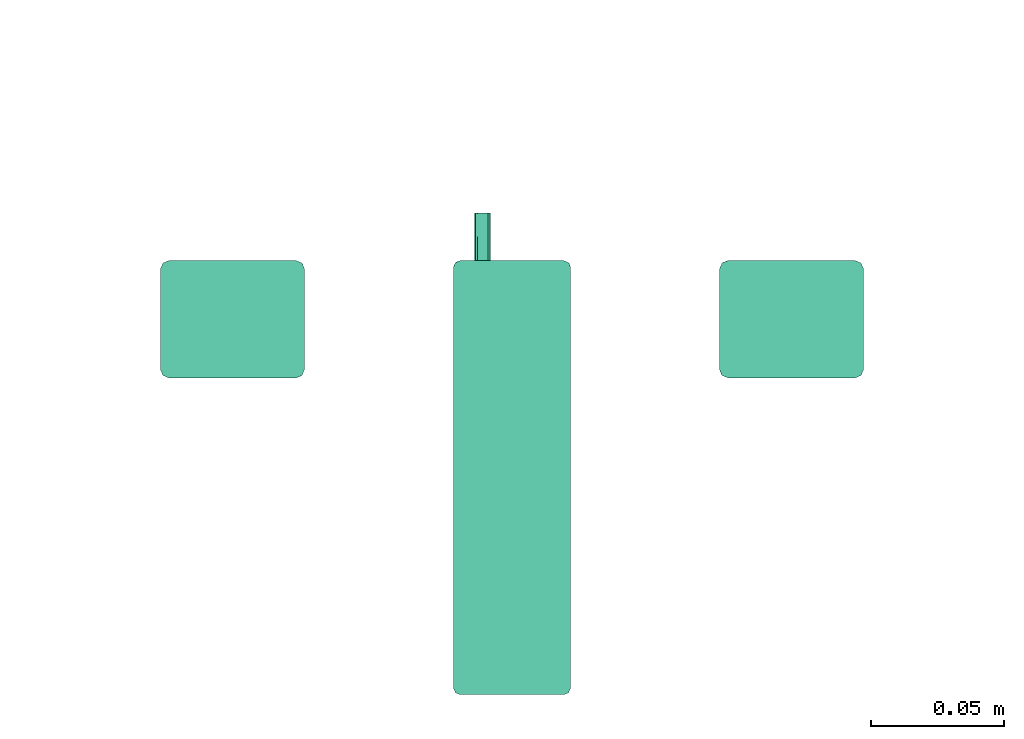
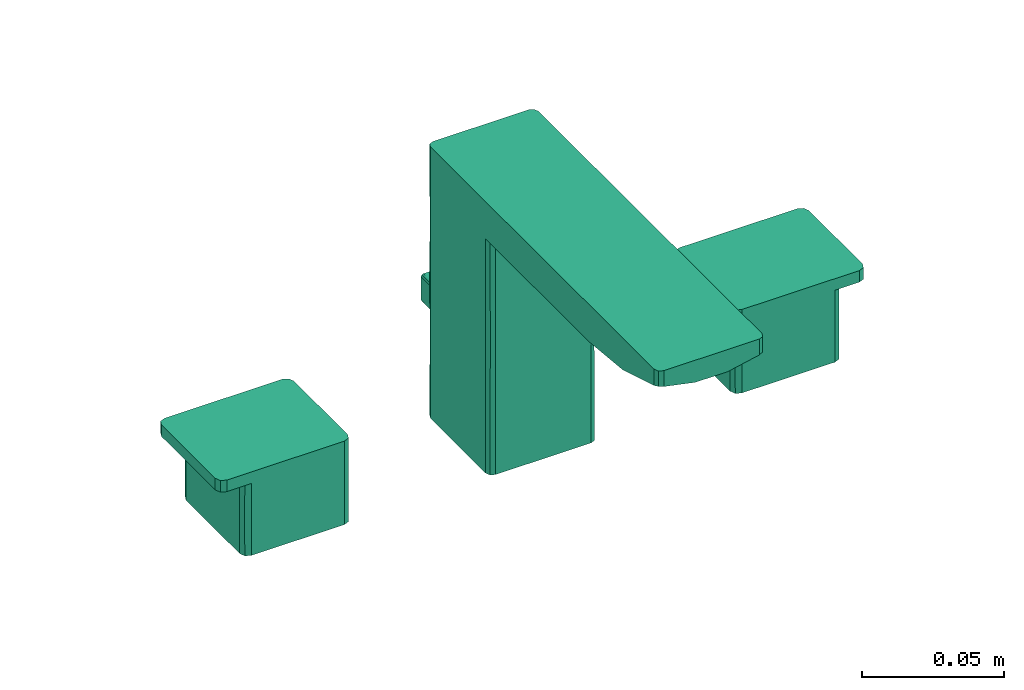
# One storey, part 2 of 2: 1 flow terminal.
"""IFC2X3 building model written with IfcOpenShell, lengths in millimetres."""

from ifc_helpers import new_model, entity, si_unit, converted_unit, derived_unit, direction, frame, origin, place, context, subcontext, project, spatial, faceted_brep, source, transform, mapped, material, type_object, type_shapes, element, save


model = new_model("IFC2X3")

# Units and contexts
model_context = context("Model", 3, precision=0.01, world=origin(), true_north=direction((6.12303176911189e-17, 1.0)))
body_context = subcontext(model_context, "Body", "Model", "MODEL_VIEW")
ifc_project = project(units=[si_unit("LENGTHUNIT", "METRE", prefix="MILLI"), si_unit("AREAUNIT", "SQUARE_METRE"), si_unit("VOLUMEUNIT", "CUBIC_METRE"), converted_unit("PLANEANGLEUNIT", "DEGREE", entity("IfcRatioMeasure", 0.0174532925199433), si_unit("PLANEANGLEUNIT", "RADIAN"), dimensions=[0, 0, 0, 0, 0, 0, 0]), si_unit("MASSUNIT", "GRAM", prefix="KILO"), derived_unit("MASSDENSITYUNIT", [(si_unit("MASSUNIT", "GRAM", prefix="KILO"), 1), (si_unit("LENGTHUNIT", "METRE"), -3)]), derived_unit("MOMENTOFINERTIAUNIT", [(si_unit("LENGTHUNIT", "METRE"), 4)]), si_unit("TIMEUNIT", "SECOND"), si_unit("FREQUENCYUNIT", "HERTZ"), si_unit("THERMODYNAMICTEMPERATUREUNIT", "DEGREE_CELSIUS"), derived_unit("THERMALTRANSMITTANCEUNIT", [(si_unit("MASSUNIT", "GRAM", prefix="KILO"), 1), (si_unit("THERMODYNAMICTEMPERATUREUNIT", "KELVIN"), -1), (si_unit("TIMEUNIT", "SECOND"), -3)]), derived_unit("VOLUMETRICFLOWRATEUNIT", [(si_unit("LENGTHUNIT", "METRE"), 3), (si_unit("TIMEUNIT", "SECOND"), -1)]), si_unit("ELECTRICCURRENTUNIT", "AMPERE"), si_unit("ELECTRICVOLTAGEUNIT", "VOLT"), si_unit("POWERUNIT", "WATT"), si_unit("FORCEUNIT", "NEWTON", prefix="KILO"), si_unit("ILLUMINANCEUNIT", "LUX"), si_unit("LUMINOUSFLUXUNIT", "LUMEN"), si_unit("LUMINOUSINTENSITYUNIT", "CANDELA"), derived_unit("USERDEFINED", [(si_unit("MASSUNIT", "GRAM", prefix="KILO"), -1), (si_unit("LENGTHUNIT", "METRE"), -2), (si_unit("TIMEUNIT", "SECOND"), 3), (si_unit("LUMINOUSFLUXUNIT", "LUMEN"), 1)]), derived_unit("LINEARVELOCITYUNIT", [(si_unit("LENGTHUNIT", "METRE"), 1), (si_unit("TIMEUNIT", "SECOND"), -1)]), si_unit("PRESSUREUNIT", "PASCAL"), derived_unit("USERDEFINED", [(si_unit("LENGTHUNIT", "METRE"), -2), (si_unit("MASSUNIT", "GRAM", prefix="KILO"), 1), (si_unit("TIMEUNIT", "SECOND"), -2)]), derived_unit("LINEARFORCEUNIT", [(si_unit("MASSUNIT", "GRAM", prefix="KILO"), 1), (si_unit("LENGTHUNIT", "METRE"), 1), (si_unit("TIMEUNIT", "SECOND"), -2), (si_unit("LENGTHUNIT", "METRE"), -1)]), derived_unit("PLANARFORCEUNIT", [(si_unit("MASSUNIT", "GRAM", prefix="KILO"), 1), (si_unit("LENGTHUNIT", "METRE"), 1), (si_unit("TIMEUNIT", "SECOND"), -2), (si_unit("LENGTHUNIT", "METRE"), -2)])], contexts=[model_context])

# Site, building, storey
site_placement = place(None, origin())
site = spatial("IfcSite", under=ifc_project, at=site_placement, Name="Default", CompositionType="ELEMENT")
building_placement = place(site_placement, origin())
building = spatial("IfcBuilding", under=site, at=building_placement, CompositionType="ELEMENT")
storey_placement = place(building_placement, origin())
storey = spatial("IfcBuildingStorey", under=building, at=storey_placement, Name="Level 1", CompositionType="ELEMENT", Elevation=0.0)

# Flow terminal
ifc_material = material(Name="Gold")
distribution_element_type = type_object("IfcDistributionElementType", Name="FFAS1303-101GL0BT0_REVIT:Acacia E 8 inch basin mixer", material=ifc_material)
shared_shape = source(origin(), body_context, "Body", "Brep", [
    faceted_brep([(132.0, 19.0, 36.0), (131.12132034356, 21.1213203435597, 36.0), (129.0, 22.0, 36.0), (81.0, 22.0, 36.0), (78.8786796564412, 21.1213203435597, 36.0), (78.0, 19.0, 36.0), (78.0, -19.0, 36.0), (78.8786796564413, -21.1213203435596, 36.0), (81.0, -22.0, 36.0), (129.0, -22.0, 36.0), (131.121320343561, -21.1213203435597, 36.0), (132.0, -19.0, 36.0), (121.121320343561, 21.1213203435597, 31.0), (119.0, 22.0, 31.0), (129.0, 22.0, 31.0), (131.12132034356, 21.1213203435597, 31.0), (132.0, 19.0, 31.0), (132.0, -19.0, 31.0), (131.121320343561, -21.1213203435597, 31.0), (129.0, -22.0, 31.0), (119.0, -22.0, 31.0), (121.121320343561, -21.1213203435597, 31.0), (122.0, -19.0, 31.0), (122.0, 19.0, 31.0), (81.0, -22.0, 31.0), (81.0, -22.0, 15.1195253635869), (81.0, -22.0, 0.0), (119.0, -22.0, 0.0), (119.0, -22.0, 15.8804752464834), (78.0, -19.0, 31.0), (78.8786796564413, -21.1213203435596, 31.0), (78.8786796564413, -21.1213203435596, 0.0), (78.0, 19.0, 31.0), (78.0, 19.0, 15.1195246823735), (78.0, 19.0, 0.0), (78.0, -19.0, 0.0), (78.0, -19.0, 15.8804749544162), (81.0, 22.0, 31.0), (78.8786796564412, 21.1213203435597, 31.0), (78.8786796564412, 21.1213203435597, 0.0), (119.0, 22.0, 15.119525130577), (119.0, 22.0, 0.0), (81.0, 22.0, 0.0), (81.0, 22.0, 15.8804763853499), (121.121320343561, 21.1213203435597, 0.0), (122.0, 19.0, 0.0), (122.0, -19.0, 0.0), (121.121320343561, -21.1213203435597, 0.0), (121.23919697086, 20.9964961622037, 15.5000001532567), (122.0, 19.0, 15.8804749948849), (122.0, -19.0, 15.1195257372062), (120.99649614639, -21.2391969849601, 15.5000004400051), (78.7608030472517, -20.9964961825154, 15.5000013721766), (79.0035038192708, 21.2391969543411, 15.5000000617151)], [[[0, 1, 2, 3, 4, 5, 6, 7, 8, 9, 10, 11]], [[12, 13, 14, 15, 16, 17, 18, 19, 20, 21, 22, 23]], [[0, 16, 15, 1]], [[15, 14, 2, 1]], [[0, 11, 17, 16]], [[9, 19, 18, 10]], [[18, 17, 11, 10]], [[19, 9, 8, 24, 25, 26, 27, 28, 20]], [[6, 29, 30, 7]], [[30, 25, 24, 8, 7]], [[31, 26, 25]], [[6, 5, 32, 33, 34, 35, 36, 29]], [[3, 37, 38, 4]], [[38, 33, 32, 5, 4]], [[39, 34, 33]], [[37, 3, 2, 14, 13, 40, 41, 42, 43]], [[26, 31, 35, 34, 39, 42, 41, 44, 45, 46, 47, 27]], [[48, 45, 44]], [[40, 13, 12]], [[44, 41, 40]], [[48, 12, 23]], [[40, 12, 48]], [[40, 48, 44]], [[45, 48, 23, 49]], [[23, 22, 50, 46, 45, 49]], [[51, 27, 47]], [[50, 22, 21]], [[47, 46, 50]], [[51, 21, 20]], [[50, 21, 51]], [[50, 51, 47]], [[27, 51, 20, 28]], [[52, 35, 31]], [[52, 25, 30]], [[52, 30, 29]], [[29, 36, 35, 52]], [[25, 52, 31]], [[53, 42, 39]], [[53, 38, 37]], [[33, 38, 53]], [[33, 53, 39]], [[42, 53, 37, 43]]]),
    faceted_brep([(-81.0, -22.0, 36.0), (-78.8786796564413, -21.1213203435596, 36.0), (-78.0, -19.0, 36.0), (-78.0, 19.0, 36.0), (-78.8786796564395, 21.121320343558, 36.0), (-81.0, 22.0, 36.0), (-129.0, 22.0, 36.0), (-131.12132034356, 21.1213203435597, 36.0), (-132.0, 19.0, 36.0), (-132.0, -19.0, 36.0), (-131.121320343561, -21.1213203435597, 36.0), (-129.0, -22.0, 36.0), (-121.121320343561, 21.1213203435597, 31.0), (-122.0, 19.0, 31.0), (-122.0, -19.0, 31.0), (-121.121320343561, -21.1213203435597, 31.0), (-119.0, -22.0, 31.0), (-129.0, -22.0, 31.0), (-131.121320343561, -21.1213203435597, 31.0), (-132.0, -19.0, 31.0), (-132.0, 19.0, 31.0), (-131.12132034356, 21.1213203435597, 31.0), (-129.0, 22.0, 31.0), (-119.0, 22.0, 31.0), (-81.0, -22.0, 31.0), (-119.0, -22.0, 15.1195251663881), (-119.0, -22.0, 0.0), (-81.0, -22.0, 0.0), (-81.0, -22.0, 15.8804755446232), (-78.8786796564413, -21.1213203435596, 31.0), (-78.0, -19.0, 15.119525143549), (-78.0, -19.0, 31.0), (-78.8786796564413, -21.1213203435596, 0.0), (-78.0, -19.0, 0.0), (-78.0, 19.0, 0.0), (-78.0, 19.0, 15.8804763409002), (-78.0, 19.0, 31.0), (-78.8786796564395, 21.121320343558, 31.0), (-81.0, 22.0, 15.119523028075), (-81.0, 22.0, 31.0), (-78.8786796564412, 21.1213203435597, 0.0), (-81.0, 22.0, 0.0), (-119.0, 22.0, 0.0), (-119.0, 22.0, 15.88047503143), (-122.0, 19.0, 0.0), (-121.121320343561, 21.1213203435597, 0.0), (-121.121320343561, -21.1213203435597, 0.0), (-122.0, -19.0, 0.0), (-120.99649614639, 21.2391969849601, 15.5000004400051), (-122.0, 19.0, 15.1195257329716), (-122.0, -19.0, 15.8804760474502), (-121.23919697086, -20.9964961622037, 15.5000001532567), (-79.0035038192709, -21.239196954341, 15.5000000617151), (-78.7608030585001, 20.9964961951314, 15.5000000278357)], [[[0, 1, 2, 3, 4, 5, 6, 7, 8, 9, 10, 11]], [[12, 13, 14, 15, 16, 17, 18, 19, 20, 21, 22, 23]], [[6, 22, 21, 7]], [[21, 20, 8, 7]], [[9, 8, 20, 19]], [[9, 19, 18, 10]], [[18, 17, 11, 10]], [[24, 0, 11, 17, 16, 25, 26, 27, 28]], [[0, 24, 29, 1]], [[29, 30, 31, 2, 1]], [[32, 33, 30]], [[3, 2, 31, 30, 33, 34, 35, 36]], [[3, 36, 37, 4]], [[37, 38, 39, 5, 4]], [[40, 41, 38]], [[22, 6, 5, 39, 38, 41, 42, 43, 23]], [[44, 45, 42, 41, 40, 34, 33, 32, 27, 26, 46, 47]], [[48, 42, 45]], [[49, 13, 12]], [[45, 44, 49]], [[48, 12, 23]], [[49, 12, 48]], [[49, 48, 45]], [[42, 48, 23, 43]], [[14, 13, 49, 44, 47, 50]], [[51, 47, 46]], [[25, 16, 15]], [[46, 26, 25]], [[51, 15, 14]], [[25, 15, 51]], [[25, 51, 46]], [[47, 51, 14, 50]], [[52, 27, 32]], [[52, 29, 24]], [[30, 29, 52]], [[30, 52, 32]], [[27, 52, 24, 28]], [[53, 34, 40]], [[53, 37, 36]], [[38, 37, 53]], [[38, 53, 40]], [[34, 53, 36, 35]]]),
    faceted_brep([(22.0, -56.0170889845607, 100.969886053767), (6.57743038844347, -22.0, 97.7325805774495), (22.0, -37.7585444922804, 100.969886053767), (22.0, -28.6292722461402, 100.969886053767), (19.4999999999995, -22.0, 100.193790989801), (22.0, -24.0646694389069, 100.969886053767), (-22.0, -37.7585511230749, 100.969886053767), (-6.57743038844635, -22.0, 97.7325805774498), (-22.0, -56.0171022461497, 100.969886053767), (-22.0, -19.5, 100.969886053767), (-21.2484251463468, -21.2868994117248, 100.725767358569), (-22.0, -24.0646553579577, 100.969886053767), (-7.4456517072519, -93.0, 97.8199871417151), (-22.0, -93.0, 100.969886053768), (7.44565170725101, -93.0, 97.819987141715), (21.2484251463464, -21.2868994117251, 100.725767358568), (22.0, -19.5, 100.969886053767), (-19.5000000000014, -22.0, 100.193790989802), (-22.0, -28.6292755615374, 100.969886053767), (22.0, -93.0, 100.969886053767), (-6.47882311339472, -113.079653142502, 99.3673565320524), (-4.81029550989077, -111.138851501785, 98.9267760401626), (-2.55892680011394, -109.873421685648, 98.6258842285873), (-7.36672940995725, -115.470295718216, 99.8753888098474), (0.0, -109.434845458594, 98.5190886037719), (-7.36512310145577, -118.019452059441, 100.37527439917), (-22.0, -116.185414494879, 103.227202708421), (-19.5000000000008, -141.0, 110.123879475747), (2.55892680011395, -109.873421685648, 98.6258842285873), (7.36672940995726, -115.470295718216, 99.8753888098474), (4.81029550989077, -111.138851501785, 98.9267760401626), (6.47882311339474, -113.079653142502, 99.3673565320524), (22.0, -116.185414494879, 103.227202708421), (7.36512310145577, -118.019452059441, 100.37527439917), (-6.58448876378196, -141.0, 107.448279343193), (-6.47602573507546, -120.423192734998, 100.80759398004), (-4.80620418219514, -122.38903581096, 101.133432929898), (-2.55821636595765, -123.674545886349, 101.33323303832), (0.0, -124.122017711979, 101.400347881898), (-21.2806853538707, -140.254753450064, 110.394002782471), (-22.0, -138.500000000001, 109.914369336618), (6.60304870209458, -141.0, 107.450185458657), (2.55821636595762, -123.674545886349, 101.33323303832), (4.80620418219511, -122.38903581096, 101.133432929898), (19.5, -141.0, 110.123879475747), (6.47602573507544, -120.423192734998, 100.80759398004), (22.0, -138.5, 109.914369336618), (21.2816508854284, -140.253773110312, 110.393919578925), (-19.5, 22.0, 117.0), (-21.2677669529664, 21.2677669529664, 117.0), (-22.0, 19.5, 117.0), (-22.0, -138.5, 117.0), (-21.2677669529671, -140.267766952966, 117.0), (-19.5000000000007, -141.0, 117.0), (19.5, -141.0, 117.0), (21.2677669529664, -140.267766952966, 117.0), (22.0, -138.5, 117.0), (22.0, 19.5, 117.0), (21.2677669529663, 21.2677669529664, 117.0), (19.5, 22.0, 117.0), (-22.0, 19.5, 103.197825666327), (-22.0, 19.5, 89.3956513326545), (-22.0, 19.5, 73.9478255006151), (-22.0, 19.5, 58.4999996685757), (-22.0, 19.5, 43.8749995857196), (-22.0, 19.5, 29.2499995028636), (-22.0, 19.5, 13.8021743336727), (-22.0, 19.5, 0.0), (-22.0, -19.5, 0.0), (-22.0, -19.5, 13.8021739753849), (-22.0, -19.5, 27.6043479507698), (-22.0, -19.5, 45.7611892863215), (-22.0, -19.5, 59.5633632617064), (-22.0, -19.5, 73.3655372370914), (-22.0, -19.5, 87.1677120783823), (22.0, -19.5, 87.1677125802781), (22.0, -19.5, 73.3655376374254), (22.0, -19.5, 50.4849430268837), (22.0, -19.5, 27.604348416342), (22.0, -19.5, 13.8021734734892), (22.0, -19.5, 0.0), (22.0, 19.5, 0.0), (22.0, 19.5, 13.8021741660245), (22.0, 19.5, 30.895651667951), (22.0, 19.5, 46.3434775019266), (22.0, 19.5, 61.7913033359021), (22.0, 19.5, 75.5934775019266), (22.0, 19.5, 89.395651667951), (22.0, 19.5, 103.197825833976), (0.0, -117.0, 99.0), (0.0, -124.287744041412, 100.682508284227), (-6.47738647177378, -120.643872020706, 99.8412541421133), (-6.47738647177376, -113.356127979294, 98.1587458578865), (0.0, -109.712255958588, 97.317491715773), (6.47738647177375, -120.643872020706, 99.8412541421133), (6.47738647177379, -113.356127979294, 98.1587458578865), (-21.2677669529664, 21.2677669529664, 0.0), (-19.5, 22.0, 0.0), (19.5, 22.0, 0.0), (21.2677669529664, 21.2677669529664, 0.0), (21.2677669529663, -21.2677669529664, 0.0), (19.5, -22.0, 0.0), (-19.5, -22.0, 0.0), (-21.2677669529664, -21.2677669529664, 0.0), (-9.0, 22.0, 46.8505411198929), (-8.29289321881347, 22.0, 46.5576479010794), (-8.0, 22.0, 45.8505411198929), (19.5, 22.0, 103.197824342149), (19.5, 22.0, 89.395650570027), (19.5, 22.0, 73.9478252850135), (19.5, 22.0, 58.5), (19.5, 22.0, 43.0521728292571), (19.5, 22.0, 27.6043475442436), (19.5, 22.0, 13.8021737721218), (-8.0, 22.0, 35.8465560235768), (-8.29172601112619, 22.0, 35.142267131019), (-8.99601490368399, 22.0, 34.8505411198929), (-13.0, 22.0, 34.8505411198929), (-13.7071067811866, 22.0, 35.1434343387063), (-14.0, 22.0, 35.8505411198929), (-14.0, 22.0, 45.8505411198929), (-19.5, 22.0, 13.8021741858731), (-19.5, 22.0, 27.6043483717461), (-19.5, 22.0, 44.6978260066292), (-19.5, 22.0, 61.7913036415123), (-19.5, 22.0, 75.5934778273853), (-19.5, 22.0, 89.3956516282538), (-19.5, 22.0, 103.197825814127), (-13.0, 22.0, 46.8505411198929), (-13.7071067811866, 22.0, 46.5576479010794), (-21.1491506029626, 21.3789098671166, 35.95377157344), (-21.2878467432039, 21.2474564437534, 51.1875017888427), (-21.267766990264, 21.2677669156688, 96.2967390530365), (-21.1891869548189, 21.342999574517, 80.2715023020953), (-21.2677669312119, 21.2677669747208, 20.7032627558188), (-21.3900509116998, 21.1363702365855, 65.7820222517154), (-19.5, -22.0, 37.5726711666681), (-19.5, -22.0, 50.0968954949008), (-21.2035188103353, -21.3297605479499, 43.8347843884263), (-19.5, -22.0, 86.3916169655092), (-21.2496983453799, -21.2856527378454, 79.4905298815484), (-21.1111906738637, -21.4115607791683, 59.2962705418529), (-21.3181364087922, -21.2159195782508, 20.7032620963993), (-19.5, -22.0, 25.0484474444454), (-19.5, -22.0, 72.5894429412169), (19.4999999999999, -22.0, 13.8021748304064), (19.4999999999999, -22.0, 27.6043485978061), (19.4999999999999, -22.0, 41.4065223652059), (19.4999999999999, -22.0, 55.2086961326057), (19.4999999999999, -22.0, 77.7012435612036), (21.3392271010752, -21.193293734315, 80.2666249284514), (21.2677669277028, -21.2677669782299, 20.7032614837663), (21.2677669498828, -21.2677669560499, 38.2956879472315), (21.3124262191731, -21.2219498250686, 63.5864980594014), (21.0726440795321, -21.4433966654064, 50.9788316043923), (21.2677669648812, 21.2677669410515, 20.7032612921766), (21.4514945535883, 21.0625840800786, 67.1667484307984), (21.3374665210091, 21.1952040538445, 54.0673916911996), (21.3374665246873, 21.1952040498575, 38.6195656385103), (21.2677669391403, 21.2677669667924, 96.2967389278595), (21.3429996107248, 21.189186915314, 80.2715018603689), (-14.0, 40.0, 45.8505411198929), (-13.7071067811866, 40.0, 46.5576479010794), (-13.0, 40.0, 46.8505411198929), (-9.0, 40.0, 46.8505411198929), (-8.29289321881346, 40.0, 46.5576479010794), (-8.0, 40.0, 45.8505411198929), (-8.0, 40.0, 35.8465560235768), (-8.29172601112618, 40.0, 35.142267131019), (-8.99601490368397, 40.0, 34.8505411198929), (-13.0, 40.0, 34.8505411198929), (-13.7071067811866, 40.0, 35.1434343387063), (-14.0, 40.0, 35.8505411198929), (-9.0, 31.0000012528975, 46.8505411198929), (-13.0, 30.7292615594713, 46.8505411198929), (-13.6358121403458, 34.0934950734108, 46.6223849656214), (-13.7135042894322, 28.1948547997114, 46.5511919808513), (-14.0, 31.0, 45.8505411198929), (-14.0, 30.7292612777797, 35.8505411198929), (-13.7718438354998, 34.0934950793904, 35.21472896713), (-13.7006508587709, 28.1948547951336, 35.1370368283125), (-13.0, 31.000000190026, 34.8505411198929), (-8.99601490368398, 30.7118504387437, 34.8505411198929), (-8.36053476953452, 34.0850865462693, 35.0796070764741), (-8.28487225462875, 28.1783466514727, 35.1491882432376), (-8.0, 31.0, 35.8465560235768), (-8.0, 30.729261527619, 45.8505411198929), (-8.22815617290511, 34.0934950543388, 46.4863532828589), (-8.29934914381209, 28.1948547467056, 46.5640454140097)], [[[0, 1, 2]], [[3, 2, 4, 5]], [[6, 7, 8]], [[9, 10, 11]], [[12, 13, 8]], [[8, 7, 12]], [[12, 7, 1, 14]], [[15, 16, 5]], [[17, 11, 10]], [[6, 18, 11, 17]], [[19, 14, 0]], [[6, 17, 7]], [[0, 14, 1]], [[1, 4, 2]], [[4, 15, 5]], [[20, 12, 21]], [[12, 22, 21]], [[23, 13, 12]], [[24, 22, 12]], [[25, 26, 23]], [[12, 20, 23]], [[25, 27, 26]], [[26, 13, 23]], [[14, 28, 24]], [[14, 19, 29]], [[30, 28, 14]], [[12, 14, 24]], [[31, 14, 29]], [[29, 19, 32]], [[29, 32, 33]], [[30, 14, 31]], [[34, 35, 36]], [[34, 37, 38]], [[37, 34, 36]], [[27, 39, 40]], [[27, 35, 34]], [[27, 25, 35]], [[27, 40, 26]], [[41, 34, 38]], [[41, 42, 43]], [[44, 45, 33]], [[45, 41, 43]], [[44, 32, 46]], [[44, 46, 47]], [[41, 45, 44]], [[41, 38, 42]], [[33, 32, 44]], [[48, 49, 50, 51, 52, 53, 54, 55, 56, 57, 58, 59]], [[51, 50, 60, 61, 62, 63, 64, 65, 66, 67, 68, 69, 70, 71, 72, 73, 74, 9, 11, 18, 6, 8, 13, 26, 40]], [[51, 40, 39]], [[51, 39, 52]], [[39, 53, 52]], [[53, 39, 27]], [[54, 53, 27, 34, 41, 44]], [[55, 54, 47]], [[47, 54, 44]], [[47, 46, 56]], [[47, 56, 55]], [[56, 46, 32, 19, 0, 2, 3, 5, 16, 75, 76, 77, 78, 79, 80, 81, 82, 83, 84, 85, 86, 87, 88, 57]], [[89, 90, 91]], [[91, 92, 89]], [[92, 93, 89]], [[89, 94, 90]], [[93, 95, 89]], [[94, 89, 95]], [[22, 93, 92]], [[23, 92, 25]], [[20, 92, 23]], [[24, 93, 22]], [[21, 22, 92]], [[20, 21, 92]], [[37, 91, 90]], [[37, 90, 38]], [[25, 91, 35]], [[37, 36, 91]], [[91, 36, 35]], [[91, 25, 92]], [[42, 38, 90]], [[42, 90, 94]], [[43, 42, 94]], [[45, 43, 94]], [[94, 33, 45]], [[94, 95, 33]], [[31, 29, 95]], [[95, 29, 33]], [[28, 95, 93]], [[31, 95, 30]], [[30, 95, 28]], [[93, 24, 28]], [[67, 96, 97, 98, 99, 81, 80, 100, 101, 102, 103, 68]], [[59, 104, 48]], [[104, 59, 105]], [[106, 105, 59]], [[106, 59, 107]], [[106, 107, 108]], [[106, 108, 109]], [[106, 109, 110]], [[106, 110, 111]], [[106, 111, 112]], [[106, 112, 113]], [[106, 113, 98]], [[114, 106, 98]], [[115, 114, 98]], [[98, 116, 115]], [[116, 98, 97]], [[97, 117, 116]], [[117, 97, 118]], [[119, 118, 97]], [[119, 97, 120]], [[120, 97, 121]], [[120, 121, 122]], [[120, 122, 123]], [[120, 123, 124]], [[120, 124, 125]], [[120, 125, 126]], [[120, 126, 127]], [[120, 127, 48]], [[128, 48, 104]], [[48, 128, 129]], [[129, 120, 48]], [[130, 64, 131]], [[130, 65, 64]], [[49, 132, 60]], [[131, 124, 123]], [[61, 132, 133]], [[134, 130, 122]], [[60, 50, 49]], [[96, 67, 66]], [[96, 134, 121]], [[134, 96, 66]], [[133, 126, 125]], [[133, 132, 126]], [[63, 131, 64]], [[49, 127, 132]], [[61, 60, 132]], [[61, 133, 62]], [[135, 131, 63]], [[121, 134, 122]], [[121, 97, 96]], [[127, 49, 48]], [[65, 134, 66]], [[62, 133, 135]], [[123, 122, 130]], [[135, 125, 124]], [[135, 124, 131]], [[65, 130, 134]], [[123, 130, 131]], [[62, 135, 63]], [[133, 125, 135]], [[127, 126, 132]], [[136, 137, 138]], [[139, 17, 10]], [[10, 140, 139]], [[141, 73, 72, 71]], [[142, 102, 143, 136]], [[73, 141, 140]], [[69, 68, 103]], [[136, 138, 142]], [[103, 102, 142]], [[10, 74, 140]], [[144, 139, 140]], [[70, 69, 142]], [[103, 142, 69]], [[141, 71, 138]], [[70, 142, 138]], [[138, 137, 141]], [[70, 138, 71]], [[137, 144, 141]], [[140, 141, 144]], [[74, 10, 9]], [[74, 73, 140]], [[1, 7, 17, 139, 144, 137, 136, 143, 102, 101, 145, 146, 147, 148, 149, 4]], [[15, 4, 150]], [[79, 78, 151]], [[150, 4, 149]], [[151, 78, 152]], [[76, 150, 153]], [[154, 147, 152]], [[15, 150, 75]], [[145, 101, 100]], [[147, 146, 152]], [[151, 145, 100]], [[146, 151, 152]], [[149, 153, 150]], [[100, 80, 79]], [[78, 77, 152]], [[100, 79, 151]], [[77, 153, 154]], [[75, 150, 76]], [[75, 16, 15]], [[153, 149, 148]], [[154, 153, 148]], [[77, 76, 153]], [[151, 146, 145]], [[147, 154, 148]], [[77, 154, 152]], [[112, 155, 99, 113]], [[156, 157, 110]], [[111, 110, 157, 158, 112]], [[85, 157, 156]], [[157, 85, 84, 83, 158]], [[107, 59, 58]], [[99, 98, 113]], [[108, 159, 160]], [[99, 82, 81]], [[88, 58, 57]], [[58, 159, 107]], [[58, 88, 159]], [[160, 159, 87]], [[108, 107, 159]], [[108, 160, 109]], [[160, 156, 109]], [[83, 82, 99, 155]], [[160, 87, 86]], [[155, 112, 158]], [[155, 158, 83]], [[110, 109, 156]], [[88, 87, 159]], [[156, 86, 85]], [[86, 156, 160]], [[161, 162, 163, 164, 165, 166, 167, 168, 169, 170, 171, 172]], [[128, 104, 173, 164, 163, 174]], [[175, 163, 162]], [[175, 162, 161]], [[120, 129, 176]], [[177, 175, 161]], [[176, 175, 177]], [[120, 176, 177]], [[175, 176, 174]], [[176, 129, 128]], [[163, 175, 174]], [[128, 174, 176]], [[120, 177, 161, 172, 178, 119]], [[179, 172, 171]], [[179, 171, 170]], [[117, 118, 180]], [[181, 179, 170]], [[180, 179, 181]], [[117, 180, 181]], [[179, 180, 178]], [[180, 118, 119]], [[172, 179, 178]], [[119, 178, 180]], [[117, 181, 170, 169, 182, 116]], [[183, 169, 168]], [[183, 168, 167]], [[114, 115, 184]], [[185, 183, 167]], [[184, 183, 185]], [[114, 184, 185]], [[183, 184, 182]], [[184, 115, 116]], [[169, 183, 182]], [[116, 182, 184]], [[114, 185, 167, 166, 186, 106]], [[187, 166, 165]], [[187, 165, 164]], [[104, 105, 188]], [[173, 187, 164]], [[188, 187, 173]], [[104, 188, 173]], [[187, 188, 186]], [[188, 105, 106]], [[166, 187, 186]], [[106, 186, 188]]]),
])
type_shapes(distribution_element_type, [shared_shape])
flow_terminal_placement = place(storey_placement, frame((-207.792931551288, -2365.16617023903, 0.0)))
element("IfcFlowTerminal", 1, at=flow_terminal_placement, inside=storey, type_object=distribution_element_type, material=ifc_material, Name="FFAS1303-101GL0BT0_REVIT:Acacia E 8 inch basin mixer", ObjectType="FFAS1303-101GL0BT0_REVIT:Acacia E 8 inch basin mixer", context=body_context, shape_type="MappedRepresentation", body=[
    mapped(shared_shape, transform((0.0, 0.0, 0.0), scale=1.0)),
])

save(model, "model.ifc")
